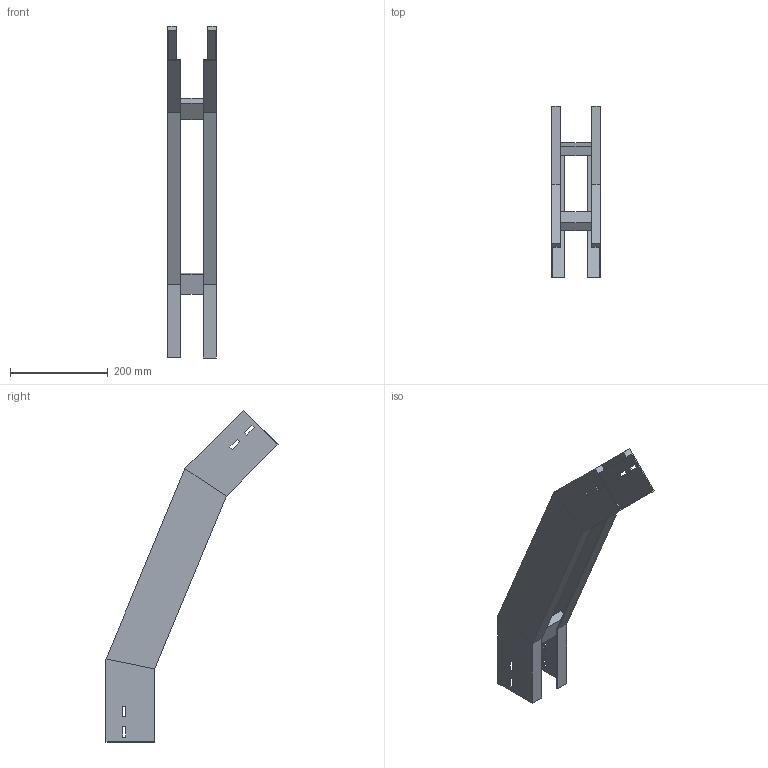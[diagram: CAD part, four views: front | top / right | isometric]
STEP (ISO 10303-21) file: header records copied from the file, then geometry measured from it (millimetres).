
FILE_DESCRIPTION (( 'STEP AP214' ), '1' );
FILE_NAME ('34B5D100.step', '2025-02-21T14:50:50', ( '' ), ( '' ), 'SwSTEP 2.0', 'SolidWorks 2023', '' );
FILE_SCHEMA (( 'AUTOMOTIVE_DESIGN' ));
Length unit declared in the file: millimetre
Products named in the file (3): TRAVERSINO_100; 34B5D100; LONGH.DISCESA_45°_H100_R500
Assembly tree (5 placements, depth 2):
  34B5D100
    LONGH.DISCESA_45°_H100_R500  x2
    TRAVERSINO_100  x3
Bounding box: 100 x 352.63 x 680.62 mm (x, y, z)
Volume: 879300.3 mm3; surface area: 451713.4 mm2
Topology: 5 solids, 5 shells, 102 faces, 244 edges, 152 vertices
Faces by surface type: plane 102
Entity records: 1480 total; most frequent: CARTESIAN_POINT 244, ORIENTED_EDGE 232, DIRECTION 228, VECTOR 116, LINE 116, EDGE_CURVE 116, VERTEX_POINT 72, AXIS2_PLACEMENT_3D 56
